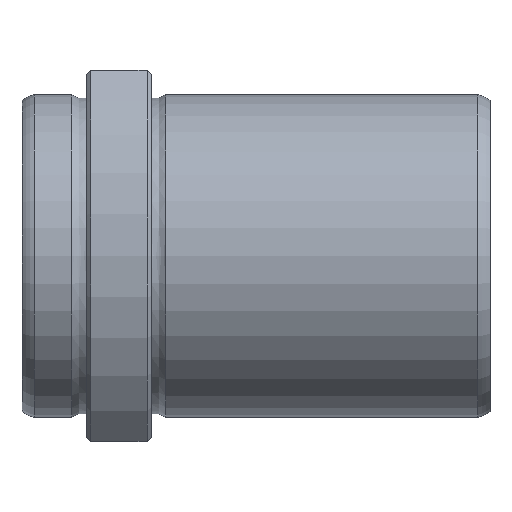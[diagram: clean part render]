
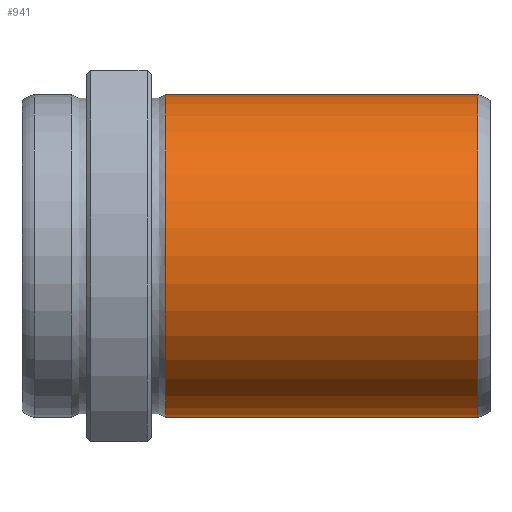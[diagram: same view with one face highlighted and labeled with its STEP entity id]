
A CAD part, top view. The second image highlights one B-rep face of the part: STEP entity #941.
In plain terms, the highlighted cylindrical face has radius 20 mm (diameter 40 mm), a full revolution.
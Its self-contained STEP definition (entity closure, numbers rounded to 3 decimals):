
#907=CARTESIAN_POINT('',(56.502,0.0,20.));
#908=VERTEX_POINT('',#907);
#909=CARTESIAN_POINT('',(56.502,0.0,0.0));
#910=DIRECTION('',(-1.0,0.0,0.0));
#911=DIRECTION('',(0.0,0.0,1.0));
#912=AXIS2_PLACEMENT_3D('',#909,#910,#911);
#913=CIRCLE('',#912,20.);
#914=EDGE_CURVE('',#908,#908,#913,.T.);
#922=CARTESIAN_POINT('',(37.162,0.0,0.0));
#923=DIRECTION('',(-1.0,0.0,0.0));
#924=DIRECTION('',(0.0,0.0,1.0));
#925=AXIS2_PLACEMENT_3D('',#922,#923,#924);
#926=CYLINDRICAL_SURFACE('',#925,20.);
#927=CARTESIAN_POINT('',(17.823,0.0,20.));
#928=VERTEX_POINT('',#927);
#929=CARTESIAN_POINT('',(17.823,0.0,0.0));
#930=DIRECTION('',(-1.0,0.0,0.0));
#931=DIRECTION('',(0.0,0.0,1.0));
#932=AXIS2_PLACEMENT_3D('',#929,#930,#931);
#933=CIRCLE('',#932,20.);
#934=EDGE_CURVE('',#928,#928,#933,.T.);
#935=ORIENTED_EDGE('',*,*,#934,.F.);
#936=EDGE_LOOP('',(#935));
#937=FACE_OUTER_BOUND('',#936,.T.);
#938=ORIENTED_EDGE('',*,*,#914,.T.);
#939=EDGE_LOOP('',(#938));
#940=FACE_BOUND('',#939,.T.);
#941=ADVANCED_FACE('',(#937,#940),#926,.T.);
